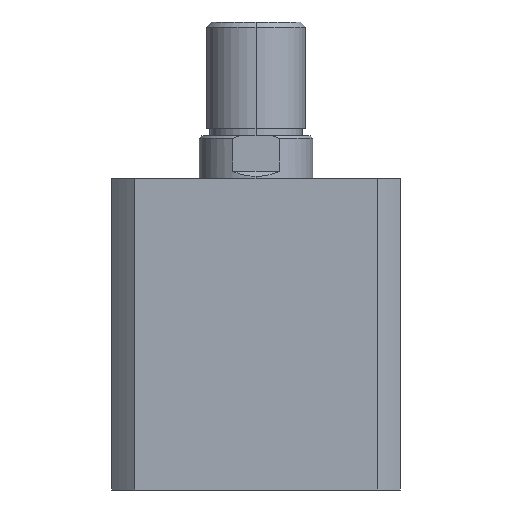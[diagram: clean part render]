
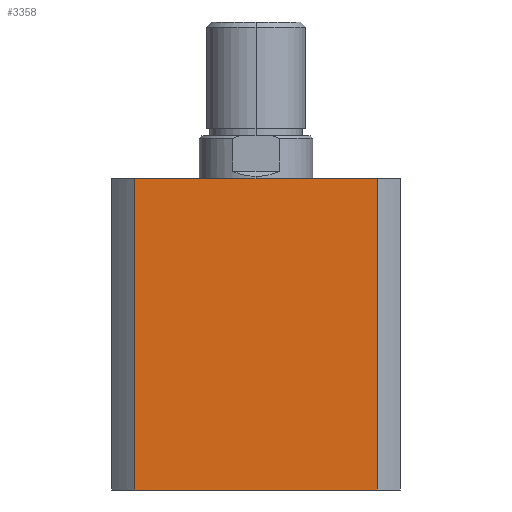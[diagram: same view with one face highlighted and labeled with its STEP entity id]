
A CAD part, left-side view. The second image highlights one B-rep face of the part: STEP entity #3358.
In plain terms, the highlighted planar face has unit normal (-1, 0, 0).
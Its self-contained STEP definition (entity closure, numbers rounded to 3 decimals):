
#60 = CARTESIAN_POINT ( 'NONE',  ( -57., -47.971, 123. ) ) ;
#230 = ORIENTED_EDGE ( 'NONE', *, *, #1934, .T. ) ;
#231 = ORIENTED_EDGE ( 'NONE', *, *, #1937, .F. ) ;
#232 = ORIENTED_EDGE ( 'NONE', *, *, #1936, .F. ) ;
#233 = ORIENTED_EDGE ( 'NONE', *, *, #1876, .T. ) ;
#649 = DIRECTION ( 'NONE',  ( 0., -1., 0. ) ) ;
#650 = CARTESIAN_POINT ( 'NONE',  ( -57., 0., 123. ) ) ;
#657 = DIRECTION ( 'NONE',  ( 0., 0., -1. ) ) ;
#661 = CARTESIAN_POINT ( 'NONE',  ( -57., 47.971, 123. ) ) ;
#671 = DIRECTION ( 'NONE',  ( 0., 0., -1. ) ) ;
#673 = CARTESIAN_POINT ( 'NONE',  ( -57., -47.971, 123. ) ) ;
#807 = CARTESIAN_POINT ( 'NONE',  ( -57., 47.971, 123. ) ) ;
#838 = CARTESIAN_POINT ( 'NONE',  ( -57., 47.971, 0. ) ) ;
#965 = CARTESIAN_POINT ( 'NONE',  ( -57., 0., 0. ) ) ;
#966 = DIRECTION ( 'NONE',  ( 0., -1., 0. ) ) ;
#1342 = VERTEX_POINT ( 'NONE', #838 ) ;
#1349 = VERTEX_POINT ( 'NONE', #807 ) ;
#1876 = EDGE_CURVE ( 'NONE', #1342, #3541, #2243, .T. ) ;
#1934 = EDGE_CURVE ( 'NONE', #1349, #1342, #2319, .T. ) ;
#1936 = EDGE_CURVE ( 'NONE', #3588, #3541, #2323, .T. ) ;
#1937 = EDGE_CURVE ( 'NONE', #1349, #3588, #2324, .T. ) ;
#2193 = EDGE_LOOP ( 'NONE', ( #233, #232, #231, #230 ) ) ;
#2243 = LINE ( 'NONE', #965, #2247 ) ;
#2247 = VECTOR ( 'NONE', #966, 1000. ) ;
#2319 = LINE ( 'NONE', #661, #2322 ) ;
#2322 = VECTOR ( 'NONE', #657, 1000. ) ;
#2323 = LINE ( 'NONE', #673, #2325 ) ;
#2324 = LINE ( 'NONE', #650, #2327 ) ;
#2325 = VECTOR ( 'NONE', #671, 1000. ) ;
#2327 = VECTOR ( 'NONE', #649, 1000. ) ;
#2704 = AXIS2_PLACEMENT_3D ( 'NONE', #5103, #5096, #5095 ) ;
#3358 = ADVANCED_FACE ( 'NONE', ( #4626 ), #5100, .F. ) ;
#3541 = VERTEX_POINT ( 'NONE', #4194 ) ;
#3588 = VERTEX_POINT ( 'NONE', #60 ) ;
#4194 = CARTESIAN_POINT ( 'NONE',  ( -57., -47.971, 0. ) ) ;
#4626 = FACE_OUTER_BOUND ( 'NONE', #2193, .T. ) ;
#5095 = DIRECTION ( 'NONE',  ( 0., 0., -1. ) ) ;
#5096 = DIRECTION ( 'NONE',  ( 1., 0., 0. ) ) ;
#5100 = PLANE ( 'NONE',  #2704 ) ;
#5103 = CARTESIAN_POINT ( 'NONE',  ( -57., 0., 123. ) ) ;
